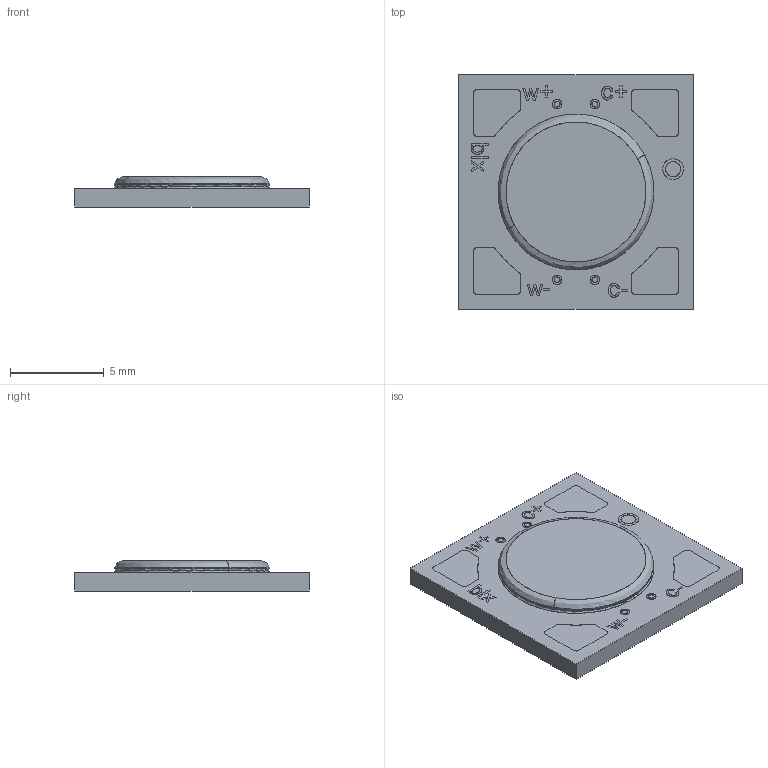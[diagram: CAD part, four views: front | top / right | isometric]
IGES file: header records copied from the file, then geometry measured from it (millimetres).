
Start section: SolidWorks IGES file using analytic representation for surfaces
Global section: file name: D:\Users\5160206\Desktop\3D document\NTW GEN3\NTW6-G3\3D file\NTW6-G3 Assembly.IGS; native system: SolidWorks 2018; preprocessor: SolidWorks 2018; author: 5160206; date: 241226.163205; units: millimetre
Bounding box: 12.5 x 12.5 x 1.6 mm (x, y, z)
Surface area: 373.7 mm2 (no closed solid volume)
Topology: 0 solids, 0 shells, 192 faces, 1578 edges, 1578 vertices
Faces by surface type: bspline 148, revolution 44
